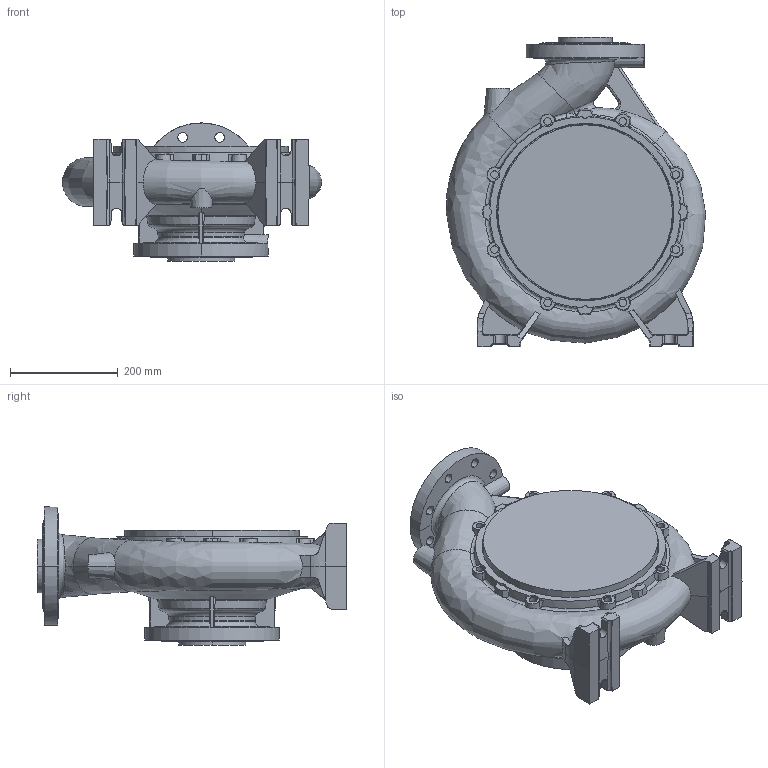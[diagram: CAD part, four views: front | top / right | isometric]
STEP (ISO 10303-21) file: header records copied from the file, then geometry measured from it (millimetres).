
FILE_DESCRIPTION (( 'STEP AP203' ), '1' );
FILE_NAME ('NM 100-315.STEP', '2016-11-11T07:50:56', ( '' ), ( '' ), 'SwSTEP 2.0', 'SolidWorks 2015', '' );
FILE_SCHEMA (( 'CONFIG_CONTROL_DESIGN' ));
Products named in the file (1): NM 100-315
Bounding box: 481.96 x 575 x 256.87 mm (x, y, z)
Volume: 22513371.5 mm3; surface area: 1625170.9 mm2
Topology: 2 solids, 2 shells, 527 faces, 1475 edges, 969 vertices
Faces by surface type: plane 159, cone 158, cylinder 110, bspline 56, torus 44
Entity records: 45369 total; most frequent: CARTESIAN_POINT 32727, ORIENTED_EDGE 2950, DIRECTION 2228, EDGE_CURVE 1475, VERTEX_POINT 969, AXIS2_PLACEMENT_3D 888, EDGE_LOOP 582, B_SPLINE_CURVE_WITH_KNOTS 551
